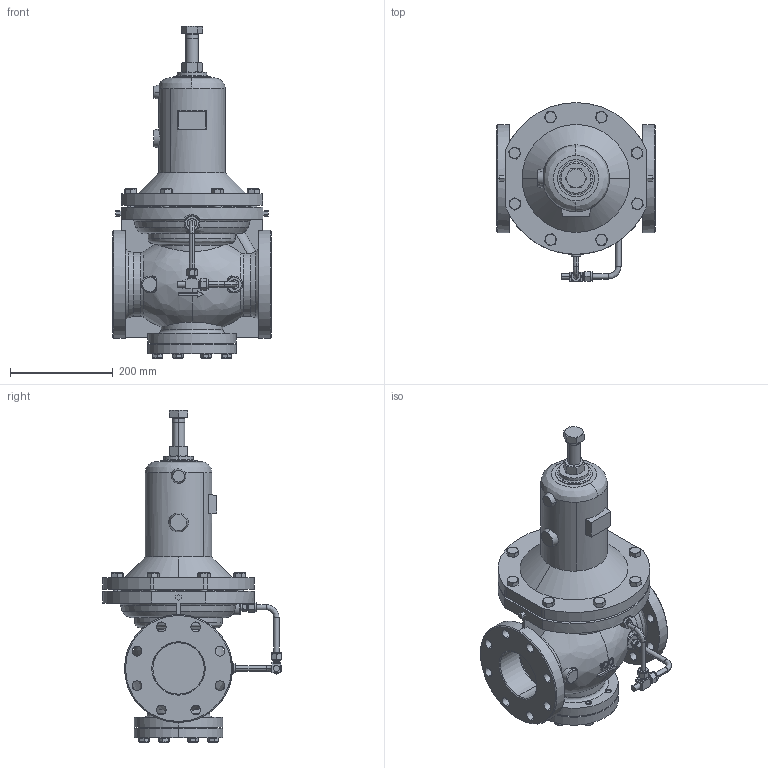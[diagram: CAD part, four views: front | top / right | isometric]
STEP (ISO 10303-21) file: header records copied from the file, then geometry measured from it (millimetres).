
FILE_DESCRIPTION( (''), '2;1');
FILE_NAME ('PC1027.11244.GD-200(100A)_20849.stp','2025-07-25T11:29:45',(''),(''),'spGate 19.8.4 (****-****-****-****)','','');
FILE_SCHEMA (('AUTOMOTIVE_DESIGN'));
Length unit declared in the file: millimetre
Products named in the file (11): Assembly; GD200(4B)本体; 100A保護筒; GD-200(100A)_M1; GD-200(100A)_M2; B-600-1-4RT; SS-10M0-3; 検出管A65_M5; 検出管B65_M5; GD-200(100A)_M3; GD-200(100A)_M4
Assembly tree (25 placements, depth 2):
  Assembly
    GD200(4B)本体
    100A保護筒
    GD-200(100A)_M1
    GD-200(100A)_M2
    B-600-1-4RT  x2
    SS-10M0-3
    検出管A65_M5
    検出管B65_M5
    GD-200(100A)_M3  x8
    GD-200(100A)_M4  x8
Bounding box: 308 x 347.36 x 645.5 mm (x, y, z)
Volume: 14670993.8 mm3; surface area: 1055627.5 mm2
Topology: 25 solids, 25 shells, 1105 faces, 2650 edges, 1647 vertices
Faces by surface type: plane 413, bspline 372, cylinder 320
Entity records: 43966 total; most frequent: CARTESIAN_POINT 13607, ORIENTED_EDGE 3636, DIRECTION 2948, COLOUR_RGB 2537, PRESENTATION_STYLE_ASSIGNMENT 2537, STYLED_ITEM 2537, EDGE_CURVE 1818, DRAUGHTING_PRE_DEFINED_CURVE_FONT 1818
